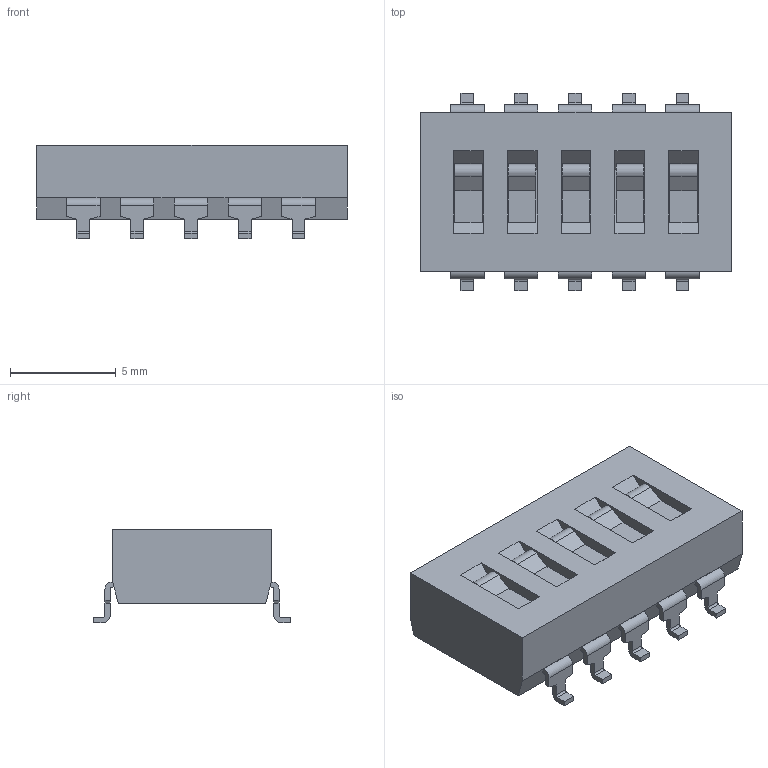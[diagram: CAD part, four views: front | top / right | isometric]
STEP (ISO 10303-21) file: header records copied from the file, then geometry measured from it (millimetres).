
FILE_DESCRIPTION(('FreeCAD Model'),'2;1');
FILE_NAME('C:/D/Lycee/Cours/BTS_SN/0_Projets_2020_2021/0_Modeles_3D_specifiques_projets/ENG_CVM_CVM_2-1825059-4_A.3d_stp/DIP_Sw_ADF05STTR04.step', '2021-04-12T17:30:19',('kicad StepUp'),('ksu MCAD'), 'Open CASCADE STEP processor 7.3','FreeCAD','Unknown');
FILE_SCHEMA(('AUTOMOTIVE_DESIGN { 1 0 10303 214 1 1 1 1 }'));
Length unit declared in the file: millimetre
Products named in the file (1): C-2-1825059-4
Bounding box: 14.68 x 9.32 x 4.44 mm (x, y, z)
Volume: 377.3 mm3; surface area: 489.2 mm2
Topology: 1 solids, 1 shells, 248 faces, 708 edges, 462 vertices
Faces by surface type: plane 203, cylinder 45
Entity records: 9732 total; most frequent: CARTESIAN_POINT 1419, ORIENTED_EDGE 1416, DIRECTION 1296, EDGE_CURVE 708, LINE 618, VECTOR 618, VERTEX_POINT 462, AXIS2_PLACEMENT_3D 339
